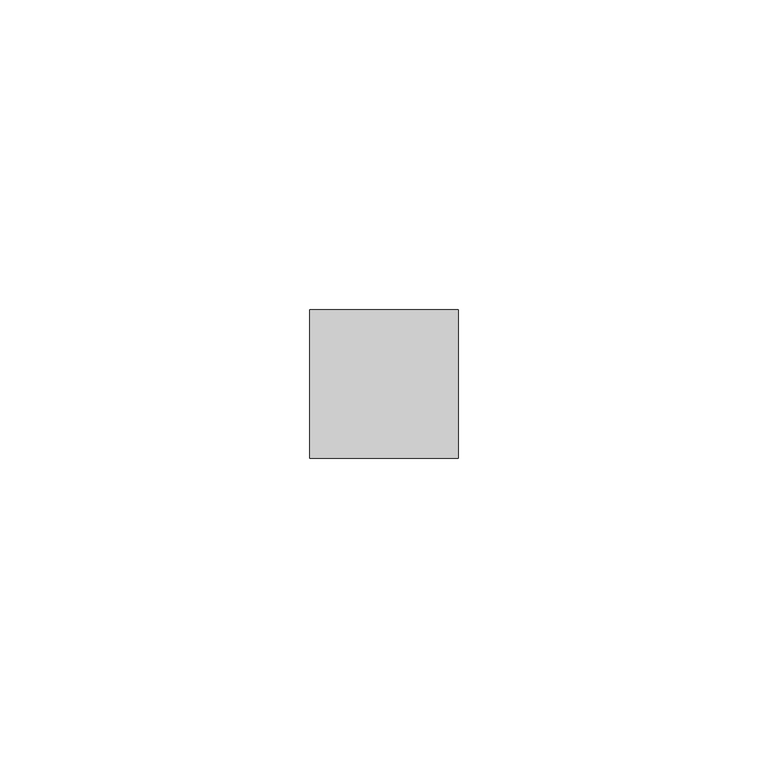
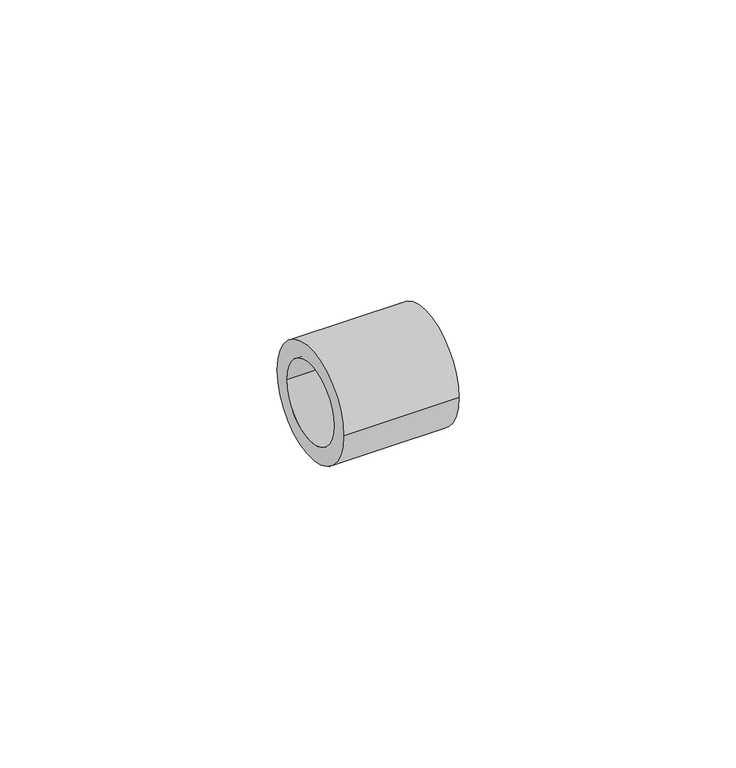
"""IFC4 building model written with IfcOpenShell, lengths in millimetres: pipe fitting geometry, REHAU_RAUTITAN_Sleeve_PX : REHAU_RAUTITAN_Sleeve_PX."""

from ifc_helpers import new_model, si_unit, point, frame, origin, origin_2d, place, context, project, spatial, circle_curve, trimmed, segment, composite_curve, outline, extrude, source, transform, mapped, element, save


def pipe_fitting_13d5c0a8(model_context):
    return source(origin(), model_context, "Body", "SweptSolid", [
        extrude(outline(composite_curve([segment(trimmed(circle_curve(origin_2d(), 12.0), [point((-12.0, 0.0))], [point((12.0, 0.0))], False, "CARTESIAN"), True, "CONTINUOUS"), segment(trimmed(circle_curve(origin_2d(), 12.0), [point((12.0, 0.0))], [point((-12.0, 0.0))], False, "CARTESIAN"), True, "CONTINUOUS")], self_intersect=False), holes=[composite_curve([segment(trimmed(circle_curve(origin_2d(), 8.45), [point((-8.45, 0.0))], [point((8.45, 0.0))], True, "CARTESIAN"), True, "CONTINUOUS"), segment(trimmed(circle_curve(origin_2d(), 8.45), [point((8.45, 0.0))], [point((-8.45, 0.0))], True, "CARTESIAN"), True, "CONTINUOUS")], self_intersect=False)]), frame((0.0, 0.0, 0.0), z_axis=(1.0, 0.0, 0.0), x_axis=(0.0, 1.0, 0.0)), (0.0, 0.0, 1.0), 24.0),
    ])


if __name__ == "__main__":
    model = new_model("IFC4")
    model_context = context("Model", 3, world=origin())
    ifc_project = project(units=[si_unit("LENGTHUNIT", "METRE", prefix="MILLI")], contexts=[model_context])
    site = spatial("IfcSite", under=ifc_project)
    building = spatial("IfcBuilding", under=site)
    placement = place(None, origin())
    pipe_fitting_shape = pipe_fitting_13d5c0a8(model_context)
    element("IfcPipeFitting", 1, ObjectType="REHAU_RAUTITAN_Sleeve_PX : REHAU_RAUTITAN_Sleeve_PX", at=placement, inside=building, context=model_context, shape_type="MappedRepresentation", body=[
        mapped(pipe_fitting_shape, transform((0.0, 0.0, 0.0), x_axis=(1.0, 0.0, 0.0), y_axis=(0.0, 1.0, 0.0), z_axis=(0.0, 0.0, 1.0))),
    ])
    save(model, "model.ifc")
